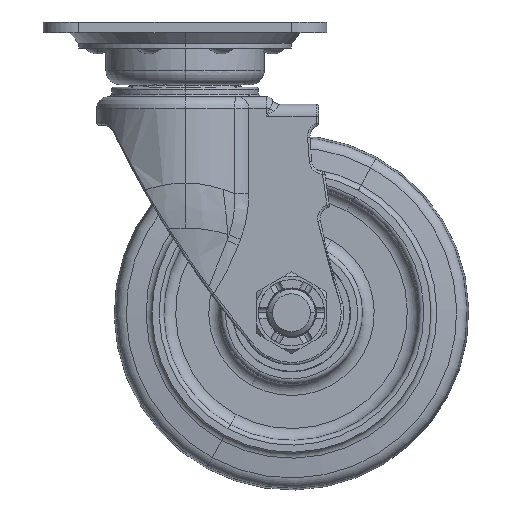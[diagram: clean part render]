
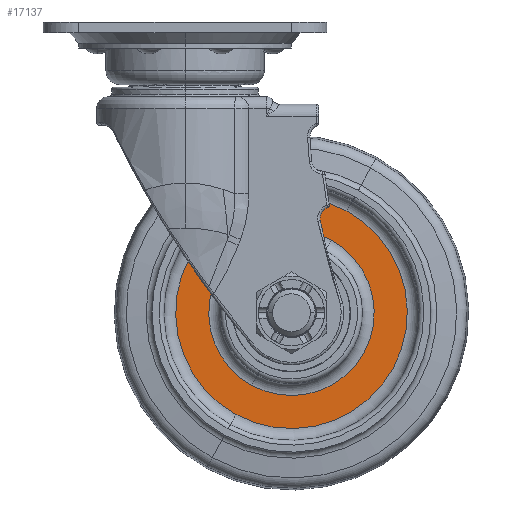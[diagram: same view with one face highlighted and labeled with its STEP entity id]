
A CAD part, front view. The second image highlights one B-rep face of the part: STEP entity #17137.
In plain terms, the highlighted planar face has unit normal (0, -1, 0).
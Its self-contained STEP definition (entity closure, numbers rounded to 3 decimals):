
#17045=AXIS2_PLACEMENT_3D('Circle Axis2P3D',#17043,#17044,$) ;
#17057=AXIS2_PLACEMENT_3D('Circle Axis2P3D',#17055,#17056,$) ;
#17113=AXIS2_PLACEMENT_3D('Plane Axis2P3D',#17110,#17111,#17112) ;
#17121=AXIS2_PLACEMENT_3D('Circle Axis2P3D',#17119,#17120,$) ;
#17130=AXIS2_PLACEMENT_3D('Circle Axis2P3D',#17128,#17129,$) ;
#17033=CARTESIAN_POINT('Vertex',(68.492,-5.,-79.998)) ;
#17040=CARTESIAN_POINT('Vertex',(21.508,-5.,-166.002)) ;
#17043=CARTESIAN_POINT('Axis2P3D Location',(45.,-5.,-123.)) ;
#17055=CARTESIAN_POINT('Axis2P3D Location',(45.,-5.,-123.)) ;
#17110=CARTESIAN_POINT('Axis2P3D Location',(45.,-5.,-74.)) ;
#17119=CARTESIAN_POINT('Axis2P3D Location',(45.,-5.,-123.)) ;
#17123=CARTESIAN_POINT('Vertex',(28.22,-5.,-153.715)) ;
#17125=CARTESIAN_POINT('Vertex',(61.78,-5.,-92.285)) ;
#17128=CARTESIAN_POINT('Axis2P3D Location',(45.,-5.,-123.)) ;
#17044=DIRECTION('Axis2P3D Direction',(-0.,1.,0.)) ;
#17056=DIRECTION('Axis2P3D Direction',(-0.,1.,0.)) ;
#17111=DIRECTION('Axis2P3D Direction',(-0.,1.,0.)) ;
#17112=DIRECTION('Axis2P3D XDirection',(1.,0.,0.)) ;
#17120=DIRECTION('Axis2P3D Direction',(-0.,1.,0.)) ;
#17129=DIRECTION('Axis2P3D Direction',(-0.,1.,0.)) ;
#17116=ORIENTED_EDGE('',*,*,#17059,.F.) ;
#17117=ORIENTED_EDGE('',*,*,#17047,.F.) ;
#17134=ORIENTED_EDGE('',*,*,#17127,.T.) ;
#17135=ORIENTED_EDGE('',*,*,#17132,.T.) ;
#17136=FACE_BOUND('',#17133,.T.) ;
#17137=ADVANCED_FACE('\X2\8ECA9AA867B6\X0\',(#17118,#17136),#17114,.F.) ;
#17046=CIRCLE('generated circle',#17045,49.) ;
#17058=CIRCLE('generated circle',#17057,49.) ;
#17122=CIRCLE('generated circle',#17121,35.) ;
#17131=CIRCLE('generated circle',#17130,35.) ;
#17047=EDGE_CURVE('',#17041,#17034,#17046,.T.) ;
#17059=EDGE_CURVE('',#17034,#17041,#17058,.T.) ;
#17127=EDGE_CURVE('',#17124,#17126,#17122,.T.) ;
#17132=EDGE_CURVE('',#17126,#17124,#17131,.T.) ;
#17115=EDGE_LOOP('',(#17116,#17117)) ;
#17133=EDGE_LOOP('',(#17134,#17135)) ;
#17118=FACE_OUTER_BOUND('',#17115,.T.) ;
#17114=PLANE('',#17113) ;
#17034=VERTEX_POINT('',#17033) ;
#17041=VERTEX_POINT('',#17040) ;
#17124=VERTEX_POINT('',#17123) ;
#17126=VERTEX_POINT('',#17125) ;
